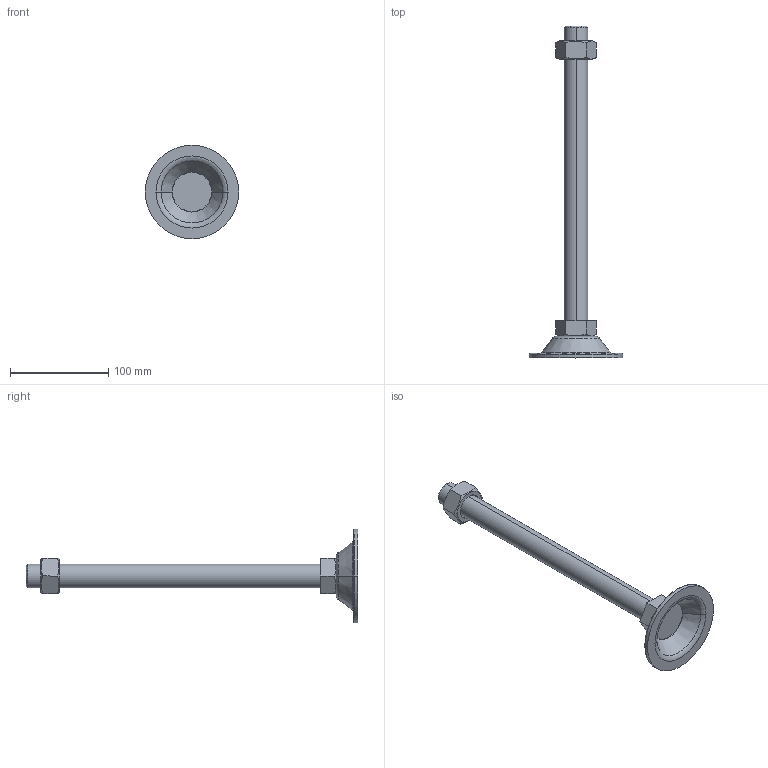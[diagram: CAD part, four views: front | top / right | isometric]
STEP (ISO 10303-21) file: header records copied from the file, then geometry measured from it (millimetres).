
FILE_DESCRIPTION (( 'STEP AP214' ), '1' );
FILE_NAME ('BL95-M24-300.step', '2021-01-06T05:42:34', ( '' ), ( '' ), 'SwSTEP 2.0', 'SolidWorks 2019', '' );
FILE_SCHEMA (( 'AUTOMOTIVE_DESIGN' ));
Length unit declared in the file: millimetre
Products named in the file (1): BL95-M24-300
Bounding box: 95 x 338 x 95 mm (x, y, z)
Volume: 204224.4 mm3; surface area: 49840.4 mm2
Topology: 3 solids, 3 shells, 53 faces, 110 edges, 66 vertices
Faces by surface type: plane 21, cone 16, torus 10, cylinder 6
Entity records: 1654 total; most frequent: CARTESIAN_POINT 464, DIRECTION 252, ORIENTED_EDGE 220, EDGE_CURVE 110, AXIS2_PLACEMENT_3D 106, VERTEX_POINT 66, EDGE_LOOP 58, FACE_OUTER_BOUND 53
